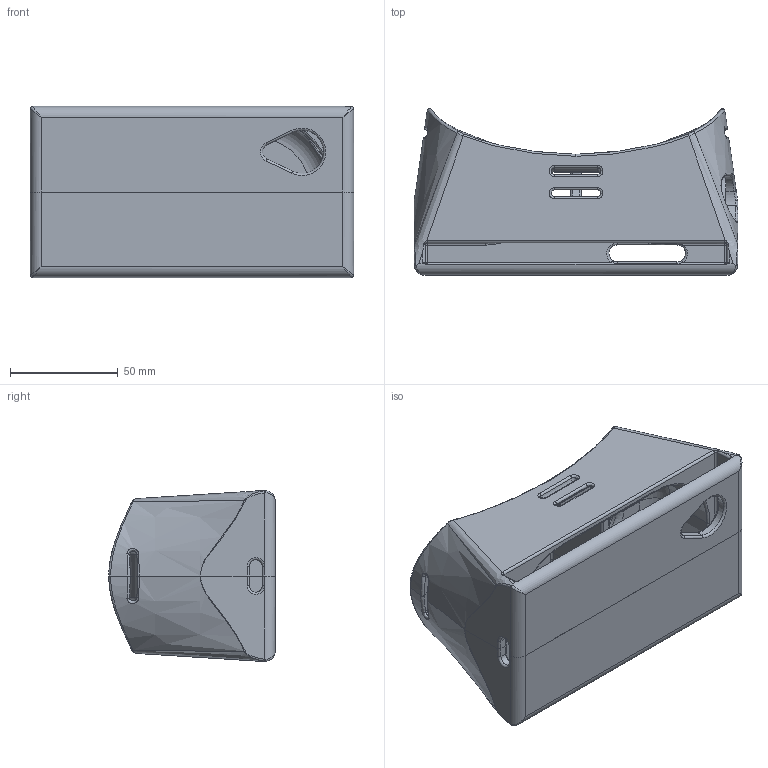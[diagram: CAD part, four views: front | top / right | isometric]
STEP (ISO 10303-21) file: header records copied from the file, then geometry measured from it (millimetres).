
FILE_DESCRIPTION(/* description */ (''),/* implementation_level */ '2;1');
FILE_NAME(/* name */ 'D:\Documents\Dream Crest Labs\Oculus\VR.stp',/* time_stamp */ '2014-12-22T19:43:02-05:00',/* author */ ('User'),/* organization */ (''),/* preprocessor_version */ 'ST-DEVELOPER v15.6',/* originating_system */ 'Autodesk Inventor 2015',/* authorisation */ '');
FILE_SCHEMA (('AUTOMOTIVE_DESIGN { 1 0 10303 214 3 1 1 }'));
Length unit declared in the file: millimetre
Products named in the file (4): VR_Top; VR_Bottom; Magnet; VR
Bounding box: 150 x 77.21 x 79.33 mm (x, y, z)
Volume: 271675.3 mm3; surface area: 90897.8 mm2
Topology: 3 solids, 3 shells, 535 faces, 1324 edges, 794 vertices
Faces by surface type: cylinder 180, bspline 154, plane 117, torus 64, sphere 18, cone 2
Full cylindrical faces by diameter (mm): 3 x2, 3.254 x2, 7 x1, 9 x1, 19 x1
Entity records: 22295 total; most frequent: CARTESIAN_POINT 10455, ORIENTED_EDGE 2574, DIRECTION 2264, EDGE_CURVE 1287, AXIS2_PLACEMENT_3D 922, VERTEX_POINT 782, EDGE_LOOP 579, FACE_OUTER_BOUND 535
